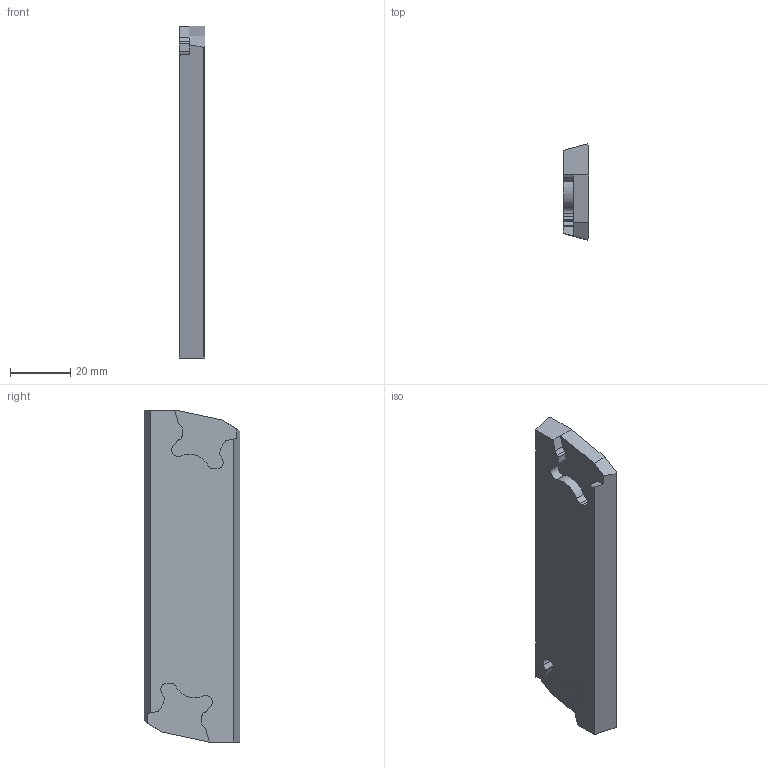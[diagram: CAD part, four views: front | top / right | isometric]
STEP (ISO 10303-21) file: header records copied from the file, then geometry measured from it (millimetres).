
FILE_DESCRIPTION(('CATIA V5 STEP Exchange'),'2;1');
FILE_NAME('I:\isr\design\admin8\users\weaam_s\2301675.D.stp','2011-09-07T06:14:17+00:00',('none'),('none'),'CATIA Version 5 Release 19 SP 7 (IN-10)','CATIA V5 STEP AP214','none');
FILE_SCHEMA(('AUTOMOTIVE_DESIGN { 1 0 10303 214 1 1 1 1 }'));
Length unit declared in the file: millimetre
Products named in the file (1): 60835768_0  PCHBL 32-24R
Bounding box: 8.5 x 31.73 x 110 mm (x, y, z)
Volume: 25267.6 mm3; surface area: 8763.3 mm2
Topology: 1 solids, 1 shells, 54 faces, 162 edges, 110 vertices
Faces by surface type: plane 32, cylinder 22
Entity records: 1815 total; most frequent: CARTESIAN_POINT 327, ORIENTED_EDGE 324, DIRECTION 270, EDGE_CURVE 162, VECTOR 118, LINE 118, VERTEX_POINT 110, AXIS2_PLACEMENT_3D 99
